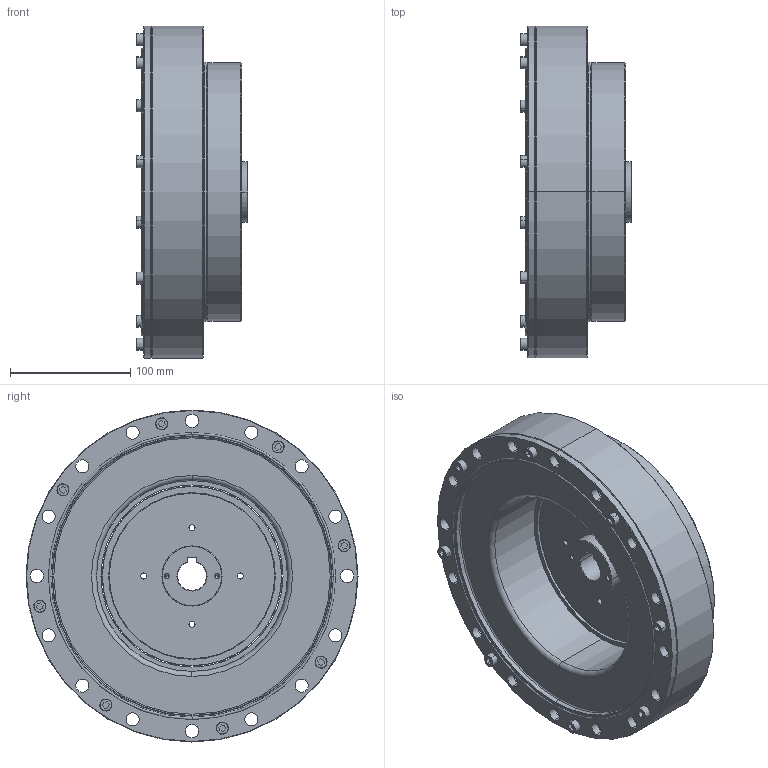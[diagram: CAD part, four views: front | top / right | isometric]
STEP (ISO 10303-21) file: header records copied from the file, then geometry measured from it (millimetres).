
FILE_DESCRIPTION (( 'STEP AP214' ), '1' );
FILE_NAME ('FHG-65-XXX-SJ.STEP', '2023-01-17T07:08:31', ( '微软用户' ), ( '微软中国' ), 'SwSTEP 2.0', 'SolidWorks 2016', '' );
FILE_SCHEMA (( 'AUTOMOTIVE_DESIGN' ));
Length unit declared in the file: millimetre
Products named in the file (1): FHG-65-XXX-SJ
Bounding box: 92.5 x 276 x 276 mm (x, y, z)
Volume: 2312088.4 mm3; surface area: 693003.7 mm2
Topology: 53 solids, 53 shells, 1017 faces, 2458 edges, 1519 vertices
Faces by surface type: cylinder 442, plane 255, cone 168, torus 106, sphere 46
Entity records: 40688 total; most frequent: DIRECTION 5629, CARTESIAN_POINT 4755, ORIENTED_EDGE 4550, AXIS2_PLACEMENT_3D 2340, EDGE_CURVE 2275, VERTEX_POINT 1450, CIRCLE 1322, EDGE_LOOP 1265
